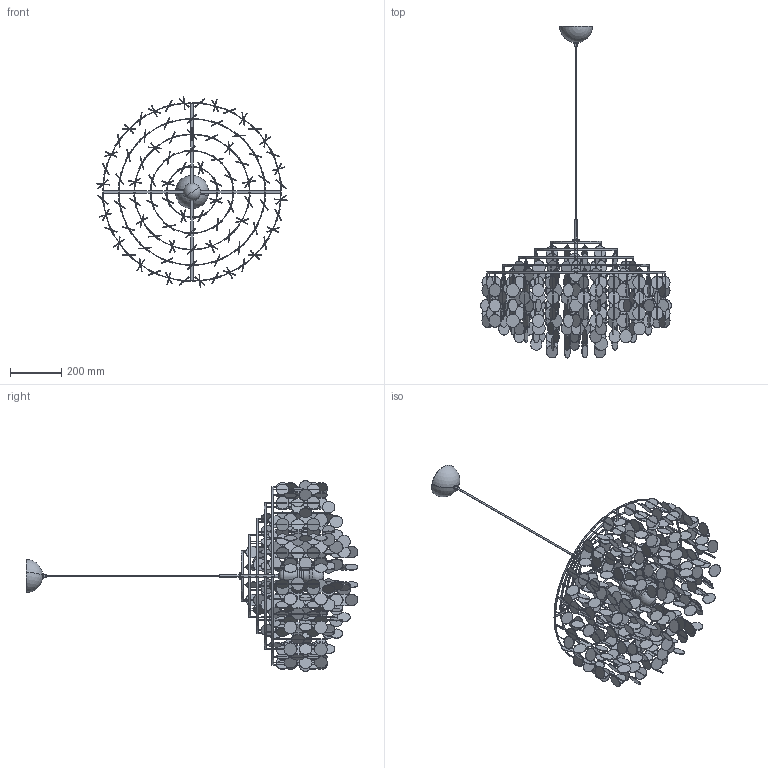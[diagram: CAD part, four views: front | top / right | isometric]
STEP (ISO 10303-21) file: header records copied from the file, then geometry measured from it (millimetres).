
FILE_DESCRIPTION (( 'STEP AP214' ), '1' );
FILE_NAME ('FUN11DM Pendel.STEP', '2012-08-07T13:51:34', ( '' ), ( '' ), 'SwSTEP 2.0', 'SolidWorks 2012', '' );
FILE_SCHEMA (( 'AUTOMOTIVE_DESIGN' ));
Length unit declared in the file: millimetre
Products named in the file (16): 74882 16W, E27, A65 Lyskilde; 3 Shells 1; 3 Shells 2; 4 Shells 1; 4 Shells 2; 5 Shells 1; 5 Shells 2; 6 Shells 1; 6 Shells 2; 7 Shells 1; 7 Shells 2; VP Fun11DM stel; Cable; Kabeldel; VP baldakin; FUN11DM Pendel
Assembly tree (95 placements, depth 2):
  FUN11DM Pendel
    VP baldakin
    Kabeldel
    Cable
    VP Fun11DM stel
    7 Shells 2  x4
    7 Shells 1  x4
    6 Shells 2  x5
    6 Shells 1  x5
    5 Shells 2  x9
    5 Shells 1  x9
    4 Shells 2  x9
    4 Shells 1  x9
    3 Shells 2  x18
    3 Shells 1  x18
    74882 16W, E27, A65 Lyskilde
Bounding box: 747.32 x 1300.3 x 747.32 mm (x, y, z)
Volume: 2121552.3 mm3; surface area: 1969111.2 mm2
Topology: 153 solids, 153 shells, 3276 faces, 6735 edges, 3748 vertices
Faces by surface type: cylinder 2146, plane 1082, torus 24, cone 14, sphere 10
Entity records: 23766 total; most frequent: CARTESIAN_POINT 6390, DIRECTION 3616, ORIENTED_EDGE 3292, EDGE_CURVE 1646, AXIS2_PLACEMENT_3D 1505, VERTEX_POINT 985, EDGE_LOOP 721, CIRCLE 713
